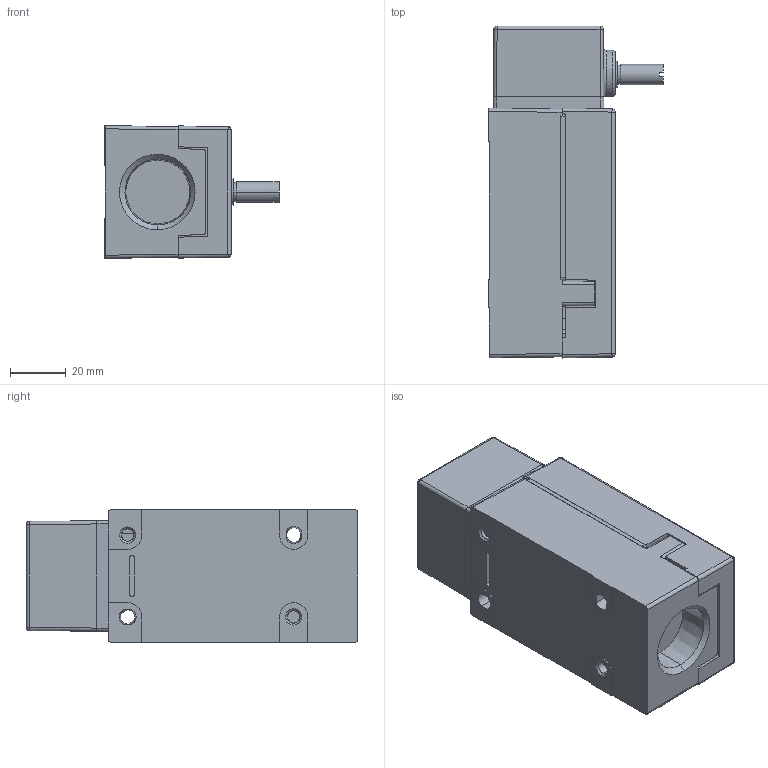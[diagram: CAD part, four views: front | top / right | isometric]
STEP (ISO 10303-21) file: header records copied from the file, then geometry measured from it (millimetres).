
FILE_DESCRIPTION((''),'2;1');
FILE_NAME('LSA2B_SW','2012-12-06T',('E522935'),(''),'PRO/ENGINEER BY PARAMETRIC TECHNOLOGY CORPORATION, 2009460','PRO/ENGINEER BY PARAMETRIC TECHNOLOGY CORPORATION, 2009460','');
FILE_SCHEMA(('CONFIG_CONTROL_DESIGN'));
Length unit declared in the file: inch
Products named in the file (1): LSA2B_SW
Bounding box: 62.61 x 119.02 x 47.62 mm (x, y, z)
Volume: 225623.3 mm3; surface area: 32538.5 mm2
Topology: 1 solids, 1 shells, 489 faces, 1250 edges, 772 vertices
Faces by surface type: plane 293, cylinder 142, cone 28, sphere 20, bspline 5, torus 1
Entity records: 16309 total; most frequent: CARTESIAN_POINT 4414, ORIENTED_EDGE 2500, DIRECTION 2460, EDGE_CURVE 1250, AXIS2_PLACEMENT_3D 850, VERTEX_POINT 772, VECTOR 760, LINE 760
